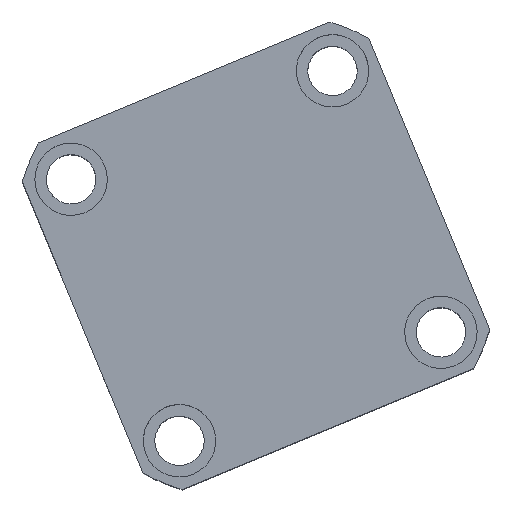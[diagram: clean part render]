
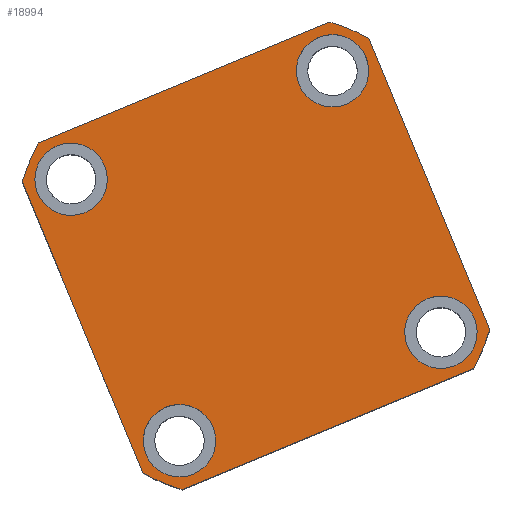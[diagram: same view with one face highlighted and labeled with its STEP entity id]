
A CAD part, top view. The second image highlights one B-rep face of the part: STEP entity #18994.
In plain terms, the highlighted planar face has unit normal (0, 0, 1) as drawn and (0, 0, -1) by its records, which use the part's own axes.
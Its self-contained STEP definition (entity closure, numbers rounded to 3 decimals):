
#105 = VERTEX_POINT ( 'NONE', #8382 ) ;
#250 = VERTEX_POINT ( 'NONE', #8590 ) ;
#279 = VECTOR ( 'NONE', #10572, 1000. ) ;
#777 = DIRECTION ( 'NONE',  ( 0., 0., 1. ) ) ;
#858 = VERTEX_POINT ( 'NONE', #12839 ) ;
#1111 = LINE ( 'NONE', #14936, #4830 ) ;
#1267 = AXIS2_PLACEMENT_3D ( 'NONE', #8020, #19061, #9617 ) ;
#1362 = ORIENTED_EDGE ( 'NONE', *, *, #17964, .F. ) ;
#1595 = FACE_BOUND ( 'NONE', #5928, .T. ) ;
#1950 = CARTESIAN_POINT ( 'NONE',  ( -43., 43., 0. ) ) ;
#2026 = CARTESIAN_POINT ( 'NONE',  ( 47.971, 57., 0. ) ) ;
#2384 = CARTESIAN_POINT ( 'NONE',  ( -47.971, -57., 0. ) ) ;
#2656 = CARTESIAN_POINT ( 'NONE',  ( 47.971, -57., 0. ) ) ;
#2820 = DIRECTION ( 'NONE',  ( 0., 0., -1. ) ) ;
#3276 = AXIS2_PLACEMENT_3D ( 'NONE', #17149, #7673, #18727 ) ;
#3328 = VERTEX_POINT ( 'NONE', #8398 ) ;
#3520 = DIRECTION ( 'NONE',  ( -1., 0., 0. ) ) ;
#3695 = VECTOR ( 'NONE', #17460, 1000. ) ;
#4016 = DIRECTION ( 'NONE',  ( 0., 0., 1. ) ) ;
#4283 = CARTESIAN_POINT ( 'NONE',  ( -32., -43., 0. ) ) ;
#4301 = DIRECTION ( 'NONE',  ( 0., 0., -1. ) ) ;
#4391 = CIRCLE ( 'NONE', #12023, 11. ) ;
#4775 = EDGE_CURVE ( 'NONE', #105, #17333, #10480, .T. ) ;
#4790 = CARTESIAN_POINT ( 'NONE',  ( -57., 57., 0. ) ) ;
#4830 = VECTOR ( 'NONE', #10241, 1000. ) ;
#4841 = ORIENTED_EDGE ( 'NONE', *, *, #18012, .F. ) ;
#4878 = ORIENTED_EDGE ( 'NONE', *, *, #13061, .F. ) ;
#4954 = CIRCLE ( 'NONE', #16283, 11. ) ;
#4970 = AXIS2_PLACEMENT_3D ( 'NONE', #12333, #2820, #13915 ) ;
#5928 = EDGE_LOOP ( 'NONE', ( #12275, #9045 ) ) ;
#6056 = AXIS2_PLACEMENT_3D ( 'NONE', #10300, #777, #11885 ) ;
#6145 = DIRECTION ( 'NONE',  ( 0., 0., 1. ) ) ;
#6232 = VERTEX_POINT ( 'NONE', #6559 ) ;
#6559 = CARTESIAN_POINT ( 'NONE',  ( 32., 43., 0. ) ) ;
#6935 = VERTEX_POINT ( 'NONE', #9406 ) ;
#6944 = DIRECTION ( 'NONE',  ( 0., 0., -1. ) ) ;
#7042 = DIRECTION ( 'NONE',  ( 0., 0., -1. ) ) ;
#7119 = AXIS2_PLACEMENT_3D ( 'NONE', #15650, #6145, #17229 ) ;
#7335 = EDGE_CURVE ( 'NONE', #19450, #3328, #12932, .T. ) ;
#7673 = DIRECTION ( 'NONE',  ( 0., 0., -1. ) ) ;
#7800 = ORIENTED_EDGE ( 'NONE', *, *, #13736, .F. ) ;
#8013 = EDGE_CURVE ( 'NONE', #6935, #858, #8454, .T. ) ;
#8020 = CARTESIAN_POINT ( 'NONE',  ( 0., 0., 0. ) ) ;
#8274 = DIRECTION ( 'NONE',  ( 0., -1., 0. ) ) ;
#8345 = CARTESIAN_POINT ( 'NONE',  ( 0., 0., 0. ) ) ;
#8382 = CARTESIAN_POINT ( 'NONE',  ( -54., -43., 0. ) ) ;
#8398 = CARTESIAN_POINT ( 'NONE',  ( 57., 47.971, 0. ) ) ;
#8429 = EDGE_LOOP ( 'NONE', ( #9808, #10813, #16004, #4841, #4878, #14315, #11599, #20436 ) ) ;
#8454 = CIRCLE ( 'NONE', #6056, 74.5 ) ;
#8494 = CARTESIAN_POINT ( 'NONE',  ( -43., -43., 0. ) ) ;
#8574 = DIRECTION ( 'NONE',  ( 0., 0., -1. ) ) ;
#8590 = CARTESIAN_POINT ( 'NONE',  ( -57., -47.971, 0. ) ) ;
#8694 = EDGE_CURVE ( 'NONE', #18885, #9170, #4954, .T. ) ;
#8811 = CIRCLE ( 'NONE', #7119, 74.5 ) ;
#8858 = AXIS2_PLACEMENT_3D ( 'NONE', #16519, #7042, #18081 ) ;
#9045 = ORIENTED_EDGE ( 'NONE', *, *, #10348, .F. ) ;
#9170 = VERTEX_POINT ( 'NONE', #14277 ) ;
#9406 = CARTESIAN_POINT ( 'NONE',  ( -47.971, 57., 0. ) ) ;
#9535 = FACE_OUTER_BOUND ( 'NONE', #8429, .T. ) ;
#9617 = DIRECTION ( 'NONE',  ( 1., 0., 0. ) ) ;
#9676 = CARTESIAN_POINT ( 'NONE',  ( -54., 43., 0. ) ) ;
#9790 = EDGE_LOOP ( 'NONE', ( #7800, #13033 ) ) ;
#9808 = ORIENTED_EDGE ( 'NONE', *, *, #17511, .F. ) ;
#9951 = DIRECTION ( 'NONE',  ( 1., 0., 0. ) ) ;
#9987 = EDGE_CURVE ( 'NONE', #858, #250, #16574, .T. ) ;
#10099 = DIRECTION ( 'NONE',  ( -1., 0., 0. ) ) ;
#10241 = DIRECTION ( 'NONE',  ( 1., 0., 0. ) ) ;
#10300 = CARTESIAN_POINT ( 'NONE',  ( 0., 0., 0. ) ) ;
#10348 = EDGE_CURVE ( 'NONE', #17333, #105, #14114, .T. ) ;
#10480 = CIRCLE ( 'NONE', #12976, 11. ) ;
#10572 = DIRECTION ( 'NONE',  ( 0., 1., 0. ) ) ;
#10813 = ORIENTED_EDGE ( 'NONE', *, *, #7335, .F. ) ;
#10978 = EDGE_CURVE ( 'NONE', #12803, #16239, #13856, .T. ) ;
#11049 = ORIENTED_EDGE ( 'NONE', *, *, #10978, .F. ) ;
#11309 = EDGE_CURVE ( 'NONE', #12899, #6935, #12153, .T. ) ;
#11404 = CARTESIAN_POINT ( 'NONE',  ( 54., -43., 0. ) ) ;
#11551 = AXIS2_PLACEMENT_3D ( 'NONE', #13802, #4301, #15401 ) ;
#11599 = ORIENTED_EDGE ( 'NONE', *, *, #8013, .F. ) ;
#11885 = DIRECTION ( 'NONE',  ( 1., 0., 0. ) ) ;
#12023 = AXIS2_PLACEMENT_3D ( 'NONE', #18020, #8574, #19579 ) ;
#12107 = CIRCLE ( 'NONE', #4970, 11. ) ;
#12153 = LINE ( 'NONE', #4790, #3695 ) ;
#12275 = ORIENTED_EDGE ( 'NONE', *, *, #4775, .F. ) ;
#12333 = CARTESIAN_POINT ( 'NONE',  ( 43., 43., 0. ) ) ;
#12673 = AXIS2_PLACEMENT_3D ( 'NONE', #8345, #19371, #9951 ) ;
#12803 = VERTEX_POINT ( 'NONE', #11404 ) ;
#12839 = CARTESIAN_POINT ( 'NONE',  ( -57., 47.971, 0. ) ) ;
#12899 = VERTEX_POINT ( 'NONE', #2026 ) ;
#12932 = LINE ( 'NONE', #19977, #279 ) ;
#12976 = AXIS2_PLACEMENT_3D ( 'NONE', #8494, #19513, #10099 ) ;
#13033 = ORIENTED_EDGE ( 'NONE', *, *, #14385, .F. ) ;
#13049 = DIRECTION ( 'NONE',  ( 0., 0., -1. ) ) ;
#13061 = EDGE_CURVE ( 'NONE', #250, #15957, #13853, .T. ) ;
#13112 = EDGE_LOOP ( 'NONE', ( #17211, #1362 ) ) ;
#13289 = CARTESIAN_POINT ( 'NONE',  ( 54., 43., 0. ) ) ;
#13525 = CARTESIAN_POINT ( 'NONE',  ( 0., 0., 0. ) ) ;
#13630 = AXIS2_PLACEMENT_3D ( 'NONE', #16418, #6944, #17992 ) ;
#13736 = EDGE_CURVE ( 'NONE', #6232, #17990, #12107, .T. ) ;
#13744 = FACE_BOUND ( 'NONE', #14356, .T. ) ;
#13802 = CARTESIAN_POINT ( 'NONE',  ( -43., -43., 0. ) ) ;
#13853 = CIRCLE ( 'NONE', #15728, 74.5 ) ;
#13856 = CIRCLE ( 'NONE', #3276, 11. ) ;
#13915 = DIRECTION ( 'NONE',  ( -1., 0., 0. ) ) ;
#14114 = CIRCLE ( 'NONE', #11551, 11. ) ;
#14251 = ORIENTED_EDGE ( 'NONE', *, *, #16626, .F. ) ;
#14258 = CIRCLE ( 'NONE', #1267, 74.5 ) ;
#14277 = CARTESIAN_POINT ( 'NONE',  ( -32., 43., 0. ) ) ;
#14315 = ORIENTED_EDGE ( 'NONE', *, *, #9987, .F. ) ;
#14356 = EDGE_LOOP ( 'NONE', ( #14251, #11049 ) ) ;
#14385 = EDGE_CURVE ( 'NONE', #17990, #6232, #4391, .T. ) ;
#14526 = PLANE ( 'NONE',  #12673 ) ;
#14703 = VERTEX_POINT ( 'NONE', #2656 ) ;
#14936 = CARTESIAN_POINT ( 'NONE',  ( -57., -57., 0. ) ) ;
#14986 = CIRCLE ( 'NONE', #13630, 11. ) ;
#15110 = DIRECTION ( 'NONE',  ( 1., 0., 0. ) ) ;
#15168 = CARTESIAN_POINT ( 'NONE',  ( 57., -47.971, 0. ) ) ;
#15349 = CARTESIAN_POINT ( 'NONE',  ( 32., -43., 0. ) ) ;
#15401 = DIRECTION ( 'NONE',  ( -1., 0., 0. ) ) ;
#15650 = CARTESIAN_POINT ( 'NONE',  ( 0., 0., 0. ) ) ;
#15680 = EDGE_CURVE ( 'NONE', #14703, #19450, #14258, .T. ) ;
#15728 = AXIS2_PLACEMENT_3D ( 'NONE', #13525, #4016, #15110 ) ;
#15957 = VERTEX_POINT ( 'NONE', #2384 ) ;
#16004 = ORIENTED_EDGE ( 'NONE', *, *, #15680, .F. ) ;
#16097 = VECTOR ( 'NONE', #8274, 1000. ) ;
#16239 = VERTEX_POINT ( 'NONE', #15349 ) ;
#16283 = AXIS2_PLACEMENT_3D ( 'NONE', #1950, #13049, #3520 ) ;
#16418 = CARTESIAN_POINT ( 'NONE',  ( 43., -43., 0. ) ) ;
#16519 = CARTESIAN_POINT ( 'NONE',  ( -43., 43., 0. ) ) ;
#16574 = LINE ( 'NONE', #17729, #16097 ) ;
#16626 = EDGE_CURVE ( 'NONE', #16239, #12803, #14986, .T. ) ;
#17149 = CARTESIAN_POINT ( 'NONE',  ( 43., -43., 0. ) ) ;
#17211 = ORIENTED_EDGE ( 'NONE', *, *, #8694, .F. ) ;
#17229 = DIRECTION ( 'NONE',  ( 1., 0., 0. ) ) ;
#17333 = VERTEX_POINT ( 'NONE', #4283 ) ;
#17456 = CIRCLE ( 'NONE', #8858, 11. ) ;
#17460 = DIRECTION ( 'NONE',  ( -1., 0., 0. ) ) ;
#17511 = EDGE_CURVE ( 'NONE', #3328, #12899, #8811, .T. ) ;
#17729 = CARTESIAN_POINT ( 'NONE',  ( -57., 57., 0. ) ) ;
#17922 = FACE_BOUND ( 'NONE', #13112, .T. ) ;
#17964 = EDGE_CURVE ( 'NONE', #9170, #18885, #17456, .T. ) ;
#17990 = VERTEX_POINT ( 'NONE', #13289 ) ;
#17992 = DIRECTION ( 'NONE',  ( -1., 0., 0. ) ) ;
#18012 = EDGE_CURVE ( 'NONE', #15957, #14703, #1111, .T. ) ;
#18020 = CARTESIAN_POINT ( 'NONE',  ( 43., 43., 0. ) ) ;
#18081 = DIRECTION ( 'NONE',  ( -1., 0., 0. ) ) ;
#18413 = FACE_BOUND ( 'NONE', #9790, .T. ) ;
#18727 = DIRECTION ( 'NONE',  ( -1., 0., 0. ) ) ;
#18885 = VERTEX_POINT ( 'NONE', #9676 ) ;
#18994 = ADVANCED_FACE ( 'NONE', ( #1595, #13744, #18413, #17922, #9535 ), #14526, .F. ) ;
#19061 = DIRECTION ( 'NONE',  ( 0., 0., 1. ) ) ;
#19371 = DIRECTION ( 'NONE',  ( 0., 0., 1. ) ) ;
#19450 = VERTEX_POINT ( 'NONE', #15168 ) ;
#19513 = DIRECTION ( 'NONE',  ( 0., 0., -1. ) ) ;
#19579 = DIRECTION ( 'NONE',  ( -1., 0., 0. ) ) ;
#19977 = CARTESIAN_POINT ( 'NONE',  ( 57., 57., 0. ) ) ;
#20436 = ORIENTED_EDGE ( 'NONE', *, *, #11309, .F. ) ;
